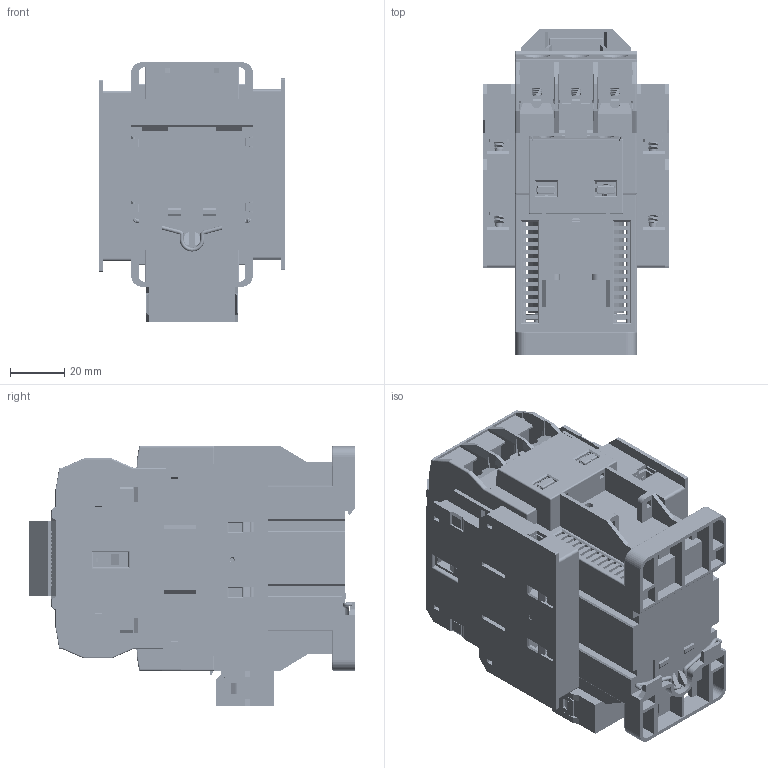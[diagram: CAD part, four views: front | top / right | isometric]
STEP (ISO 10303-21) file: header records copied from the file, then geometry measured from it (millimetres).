
FILE_DESCRIPTION((''),'2;1');
FILE_NAME('25AF_TOTAL_DC_ASM','2011-01-17T',('jsyeom'),(''),'PRO/ENGINEER BY PARAMETRIC TECHNOLOGY CORPORATION, 2010180','PRO/ENGINEER BY PARAMETRIC TECHNOLOGY CORPORATION, 2010180','');
FILE_SCHEMA(('CONFIG_CONTROL_DESIGN'));
Products named in the file (66): FRAME_UPPER_25AF; COVER_TOP_25AF; SCREW_TAPPING_M4_25AF; GRID_25AF; CONTACT_FIXED_25AF_SKEL; CONTACT_FIXED_25AF; SUPPORTER_SCREW_25AF_; M4_SCREW_25AF; M4_WASHER_25AF; M4_SCREW_25AF_ASM; TIP_25; CONTACT_FIXED_25AF_ASM; CROSSBAR_25AF; CROSSBAR_25AF_ASM; CORE_MOVE_PLATE_25AF_DC; GUIDE_DC_25; RIVET_25AF; CORE_MOVE_25AF_DC_ASM; SUPPORTOR_MOVE_25AF; CROSSBAR_TOTAL_25AF_DC_ASM; FRAME_UPPER_25AF_DC_ASM; FRAME_LOWER_TOTAL_25AF_SKEL_DC; FRAME_LOWER_25AF_DC; BOBBIN_25AF_DC; TERMINAL_COIL_25AF_SKEL; TERMINAL_COIL_25AF; M35_LUG; M35_LUG_SCREW; M35_LUG_SCREW_ASM; TERMINAL_COIL_25AF_ASM; WIRE_25AF_DC; COIL_25AF_DC_ASM; CORE_FIXED_25AF_DC_SKEL; CORE_FIXED_PLATE_DC; AIR_SPACE_25AF_DC; MAGNETIC_PLATE_25AF_DC; CORE_FIXED_SUPPORTOR_25AF; RUBBER_BOBBIN_25AF; CORE_FIXED_25AF_DC_ASM; LATCH_25AF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
Assembly tree (97 placements, depth 6):
  25AF_TOTAL_DC_ASM
    FRAME_UPPER_25AF_DC_ASM
      FRAME_UPPER_25AF
      COVER_TOP_25AF
      SCREW_TAPPING_M4_25AF  x2
      GRID_25AF  x6
      CONTACT_FIXED_25AF_ASM  x6
        CONTACT_FIXED_25AF_SKEL
        CONTACT_FIXED_25AF
        SUPPORTER_SCREW_25AF_
        M4_SCREW_25AF_ASM
          M4_SCREW_25AF
          M4_WASHER_25AF
        TIP_25
      CROSSBAR_TOTAL_25AF_DC_ASM
        CROSSBAR_25AF_ASM
          CROSSBAR_25AF
        CORE_MOVE_25AF_DC_ASM
          CORE_MOVE_PLATE_25AF_DC
          GUIDE_DC_25
          RIVET_25AF  x3
        SUPPORTOR_MOVE_25AF
    FRAME_LOWER_TOTAL_25AF_DC_ASM
      FRAME_LOWER_TOTAL_25AF_SKEL_DC
      FRAME_LOWER_25AF_DC
      COIL_25AF_DC_ASM
        BOBBIN_25AF_DC
        TERMINAL_COIL_25AF_ASM  x2
          TERMINAL_COIL_25AF_SKEL
          TERMINAL_COIL_25AF
          M35_LUG_SCREW_ASM
            M35_LUG
            M35_LUG_SCREW
        WIRE_25AF_DC
      CORE_FIXED_25AF_DC_ASM
        CORE_FIXED_25AF_DC_SKEL
        CORE_FIXED_PLATE_DC
        AIR_SPACE_25AF_DC  x2
        MAGNETIC_PLATE_25AF_DC
        CORE_FIXED_SUPPORTOR_25AF
        RUBBER_BOBBIN_25AF  x2
        RIVET_25AF  x3
      LATCH_25AF
    COVER_SAFETY_25AF
    LATCH_25AF
    SURGE_ASSY_ASM
      SURGE_CASE
      SURGE_COVER
    NAME_PLATE_MC32
    SPRING_BACK_LMC32
    CORE_FIXED_RUBBER_25AF
    TOTAL_ASSY_AUX_ASM  x2
      CASE_AUX
      COVER_AUX
      CROSSBAR_ASSY_AUX_ASM
        CROSSBAR_AUX
        CONTACT_ASSY_MOVING_AUX_ASM  x2
          CONTACT_MOVING_SKEL_AUX
          CONTACT_MOVING_AUX
          TIP_AUX_MOVING
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Bounding box: 69 x 120.6 x 96 mm (x, y, z)
Volume: 281455.8 mm3; surface area: 337152.2 mm2
Topology: 144 solids, 144 shells, 14641 faces, 41035 edges, 26629 vertices
Faces by surface type: plane 10087, cylinder 3240, cone 490, bspline 390, torus 314, sphere 120
Entity records: 240979 total; most frequent: CARTESIAN_POINT 56925, ORIENTED_EDGE 39606, DIRECTION 35926, EDGE_CURVE 19803, VECTOR 16140, LINE 16140, VERTEX_POINT 12854, AXIS2_PLACEMENT_3D 9893
